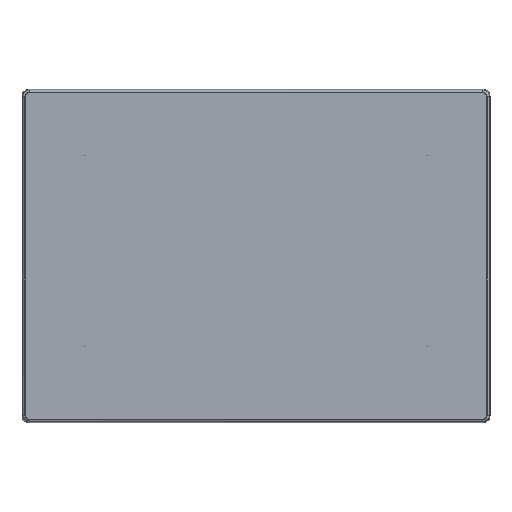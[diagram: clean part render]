
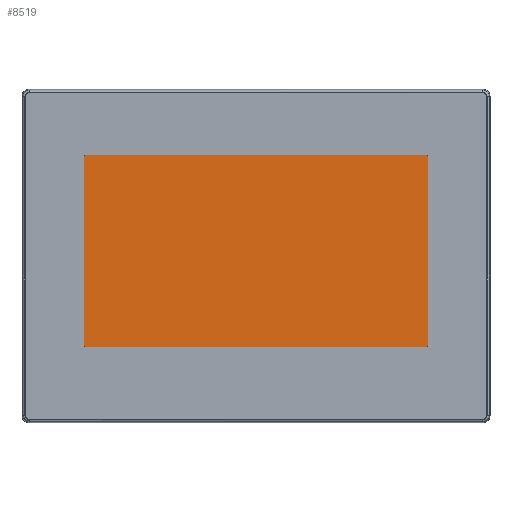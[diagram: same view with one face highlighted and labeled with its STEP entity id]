
A CAD part, top view. The second image highlights one B-rep face of the part: STEP entity #8519.
In plain terms, the highlighted planar face has unit normal (0, 0, 1).
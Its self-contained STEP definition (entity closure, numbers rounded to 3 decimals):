
#8519=ADVANCED_FACE('',(#13218),#10990,.T.);
#10990=PLANE('',#49557);
#13218=FACE_OUTER_BOUND('',#15768,.T.);
#15768=EDGE_LOOP('',(#20032,#20033,#20034,#20035));
#20032=ORIENTED_EDGE('',*,*,#34403,.T.);
#20033=ORIENTED_EDGE('',*,*,#34407,.T.);
#20034=ORIENTED_EDGE('',*,*,#34410,.T.);
#20035=ORIENTED_EDGE('',*,*,#34412,.T.);
#30242=VERTEX_POINT('',#66198);
#30243=VERTEX_POINT('',#66200);
#30245=VERTEX_POINT('',#66206);
#30247=VERTEX_POINT('',#66212);
#34403=EDGE_CURVE('',#30243,#30242,#39966,.T.);
#34407=EDGE_CURVE('',#30242,#30245,#39970,.T.);
#34410=EDGE_CURVE('',#30245,#30247,#39973,.T.);
#34412=EDGE_CURVE('',#30247,#30243,#39975,.T.);
#39966=LINE('',#66199,#44889);
#39970=LINE('',#66207,#44893);
#39973=LINE('',#66213,#44896);
#39975=LINE('',#66216,#44898);
#44889=VECTOR('',#54038,1.);
#44893=VECTOR('',#54044,1.);
#44896=VECTOR('',#54049,1.);
#44898=VECTOR('',#54053,1.);
#49557=AXIS2_PLACEMENT_3D('',#66218,#54056,#54057);
#54038=DIRECTION('',(0.,-1.,0.));
#54044=DIRECTION('',(1.,0.,0.));
#54049=DIRECTION('',(0.,1.,0.));
#54053=DIRECTION('',(-1.,0.,0.));
#54056=DIRECTION('',(0.,0.,1.));
#54057=DIRECTION('',(1.,0.,0.));
#66198=CARTESIAN_POINT('',(-77.05,-40.7,5.8));
#66199=CARTESIAN_POINT('',(-77.05,45.2,5.8));
#66200=CARTESIAN_POINT('',(-77.05,45.2,5.8));
#66206=CARTESIAN_POINT('',(77.05,-40.7,5.8));
#66207=CARTESIAN_POINT('',(-77.05,-40.7,5.8));
#66212=CARTESIAN_POINT('',(77.05,45.2,5.8));
#66213=CARTESIAN_POINT('',(77.05,-40.7,5.8));
#66216=CARTESIAN_POINT('',(77.05,45.2,5.8));
#66218=CARTESIAN_POINT('',(0.,0.,5.8));
